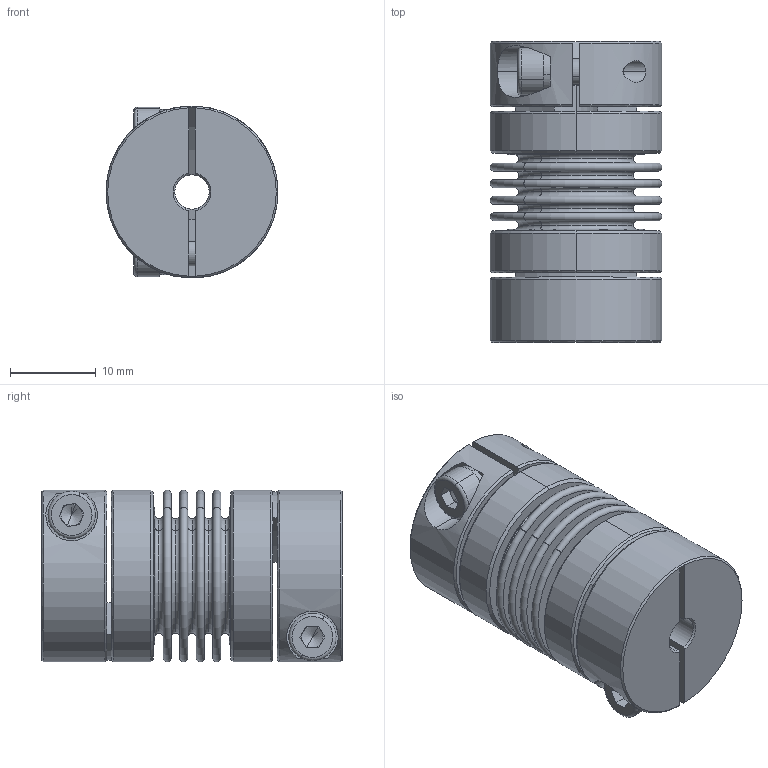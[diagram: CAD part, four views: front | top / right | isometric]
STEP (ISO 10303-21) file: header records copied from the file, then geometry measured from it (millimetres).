
FILE_DESCRIPTION (( 'STEP AP203' ), '1' );
FILE_NAME ('LB-B-D20L34-4-8.STEP', '2021-11-04T01:38:08', ( '' ), ( '' ), 'SwSTEP 2.0', 'SolidWorks 2018', '' );
FILE_SCHEMA (( 'CONFIG_CONTROL_DESIGN' ));
Length unit declared in the file: millimetre
Products named in the file (2): LB-B-D20L34-4-8; 零件4^LB-B-D20L34 波纹管联轴器-组装体
Assembly tree (1 placements, depth 2):
  LB-B-D20L34-4-8
    零件4^LB-B-D20L34 波纹管联轴器-组装体
Bounding box: 20 x 35 x 20 mm (x, y, z)
Volume: 6058.5 mm3; surface area: 9543.5 mm2
Topology: 1 solids, 1 shells, 246 faces, 572 edges, 354 vertices
Faces by surface type: plane 83, torus 68, cylinder 61, cone 34
Entity records: 7500 total; most frequent: CARTESIAN_POINT 1478, DIRECTION 1376, ORIENTED_EDGE 1136, AXIS2_PLACEMENT_3D 604, EDGE_CURVE 568, VERTEX_POINT 354, CIRCLE 354, EDGE_LOOP 288
